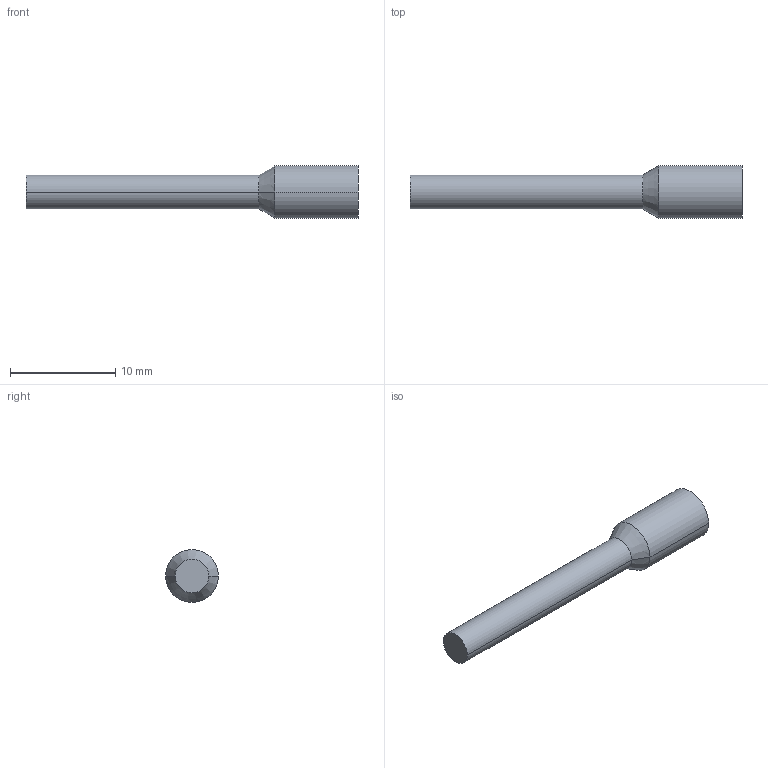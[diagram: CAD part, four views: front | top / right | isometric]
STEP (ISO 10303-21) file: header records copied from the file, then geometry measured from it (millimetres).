
FILE_DESCRIPTION( ( '' ), '1' );
FILE_NAME( 'G:/SMC狟婥/KQ2P-23_Old.stp', '2023-03-08T06:02:12', ( '' ), ( '' ), ' ', ' ', ' ' );
FILE_SCHEMA( ( 'CONFIG_CONTROL_DESIGN' ) );
Length unit declared in the file: millimetre
Products named in the file (1): 1
Bounding box: 31.5 x 5 x 5 mm (x, y, z)
Volume: 353 mm3; surface area: 396.4 mm2
Topology: 1 solids, 1 shells, 8 faces, 14 edges, 8 vertices
Faces by surface type: cylinder 4, cone 2, plane 2
Entity records: 238 total; most frequent: DIRECTION 40, CARTESIAN_POINT 31, ORIENTED_EDGE 28, AXIS2_PLACEMENT_3D 17, EDGE_CURVE 14, ADVANCED_FACE 8, FACE_OUTER_BOUND 8, EDGE_LOOP 8
